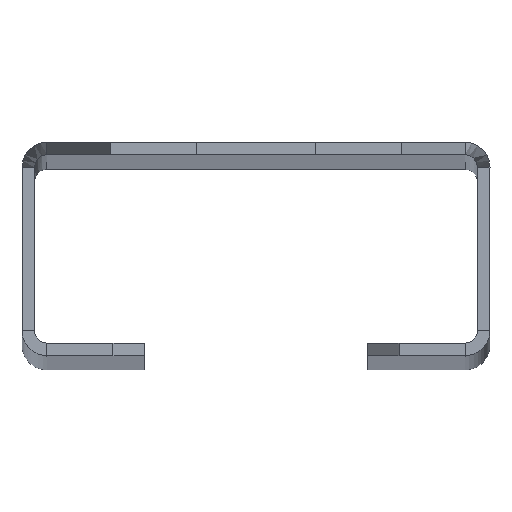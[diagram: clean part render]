
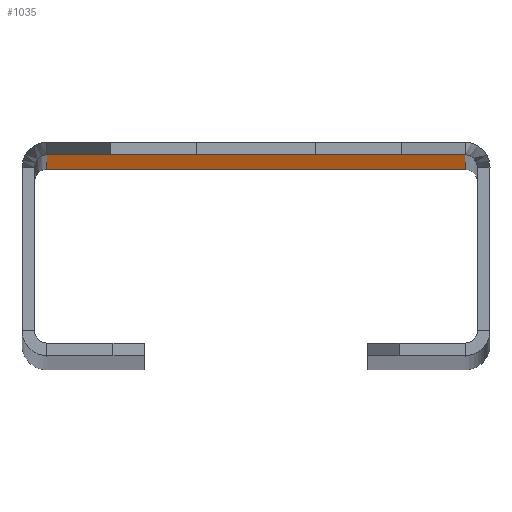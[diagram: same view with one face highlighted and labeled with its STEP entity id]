
A CAD part, top view. The second image highlights one B-rep face of the part: STEP entity #1035.
In plain terms, the highlighted planar face has unit normal (0, -1, 0).
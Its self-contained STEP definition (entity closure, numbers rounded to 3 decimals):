
#6 = VECTOR ( 'NONE', #412, 1000. ) ;
#7 = DIRECTION ( 'NONE',  ( 0., 0., 1. ) ) ;
#8 = CARTESIAN_POINT ( 'NONE',  ( 6.45, -1.2, -407.5 ) ) ;
#28 = EDGE_CURVE ( 'NONE', #513, #537, #1374, .T. ) ;
#50 = EDGE_CURVE ( 'NONE', #236, #537, #218, .T. ) ;
#52 = DIRECTION ( 'NONE',  ( 0., 0., -1. ) ) ;
#65 = CARTESIAN_POINT ( 'NONE',  ( 6.45, -1.2, -404.25 ) ) ;
#76 = FACE_BOUND ( 'NONE', #1067, .T. ) ;
#77 = CIRCLE ( 'NONE', #342, 3.25 ) ;
#100 = CARTESIAN_POINT ( 'NONE',  ( -7.9, -1.2, 399.781 ) ) ;
#102 = DIRECTION ( 'NONE',  ( 0., 0., 1. ) ) ;
#111 = CARTESIAN_POINT ( 'NONE',  ( -1.745, -1.2, 410.25 ) ) ;
#117 = VECTOR ( 'NONE', #736, 1000. ) ;
#138 = CIRCLE ( 'NONE', #580, 3.25 ) ;
#154 = VERTEX_POINT ( 'NONE', #462 ) ;
#155 = EDGE_CURVE ( 'NONE', #408, #1601, #138, .T. ) ;
#156 = VERTEX_POINT ( 'NONE', #352 ) ;
#170 = VERTEX_POINT ( 'NONE', #1681 ) ;
#175 = DIRECTION ( 'NONE',  ( -0.507, 0., 0.862 ) ) ;
#180 = CARTESIAN_POINT ( 'NONE',  ( 0., -1.2, 0. ) ) ;
#193 = VECTOR ( 'NONE', #884, 1000. ) ;
#196 = CIRCLE ( 'NONE', #1395, 3.25 ) ;
#213 = EDGE_CURVE ( 'NONE', #1495, #1347, #917, .T. ) ;
#218 = LINE ( 'NONE', #1419, #890 ) ;
#233 = DIRECTION ( 'NONE',  ( 0., 0., -1. ) ) ;
#235 = DIRECTION ( 'NONE',  ( 0., -1., 0. ) ) ;
#236 = VERTEX_POINT ( 'NONE', #111 ) ;
#241 = EDGE_CURVE ( 'NONE', #156, #386, #196, .T. ) ;
#259 = CARTESIAN_POINT ( 'NONE',  ( 6.45, -1.2, -401. ) ) ;
#273 = DIRECTION ( 'NONE',  ( 0., 1., 0. ) ) ;
#279 = CARTESIAN_POINT ( 'NONE',  ( -1.745, -1.2, -410.25 ) ) ;
#280 = VERTEX_POINT ( 'NONE', #8 ) ;
#284 = EDGE_CURVE ( 'NONE', #1679, #280, #1484, .T. ) ;
#292 = CARTESIAN_POINT ( 'NONE',  ( -7.9, -1.2, -410.25 ) ) ;
#299 = DIRECTION ( 'NONE',  ( 0., 0., 1. ) ) ;
#318 = CARTESIAN_POINT ( 'NONE',  ( 17.95, -1.2, 404.25 ) ) ;
#323 = CARTESIAN_POINT ( 'NONE',  ( 32.3, -1.2, -399.781 ) ) ;
#328 = AXIS2_PLACEMENT_3D ( 'NONE', #654, #1567, #233 ) ;
#332 = DIRECTION ( 'NONE',  ( 0., 0., -1. ) ) ;
#342 = AXIS2_PLACEMENT_3D ( 'NONE', #65, #992, #1683 ) ;
#350 = ORIENTED_EDGE ( 'NONE', *, *, #581, .T. ) ;
#352 = CARTESIAN_POINT ( 'NONE',  ( 12.2, -1.2, -377. ) ) ;
#367 = EDGE_CURVE ( 'NONE', #824, #408, #578, .T. ) ;
#369 = LINE ( 'NONE', #100, #1282 ) ;
#375 = DIRECTION ( 'NONE',  ( -0.507, 0., -0.862 ) ) ;
#376 = DIRECTION ( 'NONE',  ( 0., 0., -1. ) ) ;
#386 = VERTEX_POINT ( 'NONE', #1656 ) ;
#390 = VERTEX_POINT ( 'NONE', #978 ) ;
#408 = VERTEX_POINT ( 'NONE', #1525 ) ;
#409 = EDGE_CURVE ( 'NONE', #170, #625, #989, .T. ) ;
#412 = DIRECTION ( 'NONE',  ( 1., 0., 0. ) ) ;
#416 = VECTOR ( 'NONE', #1582, 1000. ) ;
#426 = CARTESIAN_POINT ( 'NONE',  ( 32.3, -1.2, 399.781 ) ) ;
#429 = ORIENTED_EDGE ( 'NONE', *, *, #557, .F. ) ;
#454 = DIRECTION ( 'NONE',  ( 1., 0., 0. ) ) ;
#455 = EDGE_CURVE ( 'NONE', #513, #625, #1234, .T. ) ;
#462 = CARTESIAN_POINT ( 'NONE',  ( 17.95, -1.2, -401. ) ) ;
#463 = CARTESIAN_POINT ( 'NONE',  ( -7.9, -1.2, -399.781 ) ) ;
#469 = VERTEX_POINT ( 'NONE', #1243 ) ;
#478 = CARTESIAN_POINT ( 'NONE',  ( -7.9, -1.2, -399.781 ) ) ;
#501 = CIRCLE ( 'NONE', #328, 3.25 ) ;
#513 = VERTEX_POINT ( 'NONE', #745 ) ;
#527 = CARTESIAN_POINT ( 'NONE',  ( 6.45, -1.2, -401. ) ) ;
#537 = VERTEX_POINT ( 'NONE', #903 ) ;
#550 = CARTESIAN_POINT ( 'NONE',  ( 6.45, -1.2, 401. ) ) ;
#554 = EDGE_LOOP ( 'NONE', ( #1399, #429 ) ) ;
#557 = EDGE_CURVE ( 'NONE', #386, #156, #501, .T. ) ;
#559 = FACE_BOUND ( 'NONE', #758, .T. ) ;
#569 = DIRECTION ( 'NONE',  ( 0., -1., 0. ) ) ;
#578 = LINE ( 'NONE', #1115, #117 ) ;
#580 = AXIS2_PLACEMENT_3D ( 'NONE', #318, #910, #102 ) ;
#581 = EDGE_CURVE ( 'NONE', #236, #390, #369, .T. ) ;
#625 = VERTEX_POINT ( 'NONE', #755 ) ;
#654 = CARTESIAN_POINT ( 'NONE',  ( 12.2, -1.2, -380.25 ) ) ;
#655 = DIRECTION ( 'NONE',  ( 0.507, 0., -0.862 ) ) ;
#665 = ORIENTED_EDGE ( 'NONE', *, *, #367, .T. ) ;
#671 = LINE ( 'NONE', #550, #416 ) ;
#696 = ORIENTED_EDGE ( 'NONE', *, *, #902, .T. ) ;
#713 = CARTESIAN_POINT ( 'NONE',  ( 32.3, -1.2, 399.781 ) ) ;
#729 = DIRECTION ( 'NONE',  ( 0.507, 0., 0.862 ) ) ;
#736 = DIRECTION ( 'NONE',  ( 1., 0., 0. ) ) ;
#745 = CARTESIAN_POINT ( 'NONE',  ( 32.3, -1.2, 399.781 ) ) ;
#751 = VECTOR ( 'NONE', #52, 1000. ) ;
#755 = CARTESIAN_POINT ( 'NONE',  ( 32.3, -1.2, -399.781 ) ) ;
#758 = EDGE_LOOP ( 'NONE', ( #1300, #665, #1273, #696 ) ) ;
#822 = DIRECTION ( 'NONE',  ( -1., 0., 0. ) ) ;
#824 = VERTEX_POINT ( 'NONE', #869 ) ;
#847 = ORIENTED_EDGE ( 'NONE', *, *, #1503, .T. ) ;
#848 = EDGE_CURVE ( 'NONE', #469, #824, #1089, .T. ) ;
#857 = AXIS2_PLACEMENT_3D ( 'NONE', #180, #569, #332 ) ;
#869 = CARTESIAN_POINT ( 'NONE',  ( 6.45, -1.2, 407.5 ) ) ;
#884 = DIRECTION ( 'NONE',  ( 0., 0., 1. ) ) ;
#890 = VECTOR ( 'NONE', #454, 1000. ) ;
#902 = EDGE_CURVE ( 'NONE', #1601, #469, #671, .T. ) ;
#903 = CARTESIAN_POINT ( 'NONE',  ( 26.145, -1.2, 410.25 ) ) ;
#908 = EDGE_CURVE ( 'NONE', #154, #1679, #1611, .T. ) ;
#910 = DIRECTION ( 'NONE',  ( 0., 1., 0. ) ) ;
#913 = CARTESIAN_POINT ( 'NONE',  ( 17.95, -1.2, -407.5 ) ) ;
#917 = LINE ( 'NONE', #1158, #1308 ) ;
#931 = CARTESIAN_POINT ( 'NONE',  ( 17.95, -1.2, -404.25 ) ) ;
#932 = CARTESIAN_POINT ( 'NONE',  ( 6.45, -1.2, -407.5 ) ) ;
#950 = EDGE_CURVE ( 'NONE', #1563, #154, #952, .T. ) ;
#952 = LINE ( 'NONE', #527, #6 ) ;
#954 = ORIENTED_EDGE ( 'NONE', *, *, #284, .T. ) ;
#962 = EDGE_CURVE ( 'NONE', #170, #1347, #1331, .T. ) ;
#965 = ORIENTED_EDGE ( 'NONE', *, *, #213, .T. ) ;
#978 = CARTESIAN_POINT ( 'NONE',  ( -7.9, -1.2, 399.781 ) ) ;
#987 = PLANE ( 'NONE',  #857 ) ;
#989 = LINE ( 'NONE', #323, #1507 ) ;
#992 = DIRECTION ( 'NONE',  ( 0., 1., 0. ) ) ;
#1035 = ADVANCED_FACE ( 'NONE', ( #1533, #559, #76, #1388 ), #987, .T. ) ;
#1046 = ORIENTED_EDGE ( 'NONE', *, *, #950, .T. ) ;
#1067 = EDGE_LOOP ( 'NONE', ( #847, #1046, #1297, #954 ) ) ;
#1089 = CIRCLE ( 'NONE', #1312, 3.25 ) ;
#1115 = CARTESIAN_POINT ( 'NONE',  ( 6.45, -1.2, 407.5 ) ) ;
#1158 = CARTESIAN_POINT ( 'NONE',  ( -7.9, -1.2, -399.781 ) ) ;
#1178 = EDGE_CURVE ( 'NONE', #1495, #390, #1672, .T. ) ;
#1182 = ORIENTED_EDGE ( 'NONE', *, *, #962, .F. ) ;
#1190 = VECTOR ( 'NONE', #822, 1000. ) ;
#1192 = VECTOR ( 'NONE', #175, 1000. ) ;
#1205 = ORIENTED_EDGE ( 'NONE', *, *, #28, .T. ) ;
#1234 = LINE ( 'NONE', #713, #751 ) ;
#1243 = CARTESIAN_POINT ( 'NONE',  ( 6.45, -1.2, 401. ) ) ;
#1273 = ORIENTED_EDGE ( 'NONE', *, *, #155, .T. ) ;
#1282 = VECTOR ( 'NONE', #375, 1000. ) ;
#1291 = CARTESIAN_POINT ( 'NONE',  ( 12.2, -1.2, -380.25 ) ) ;
#1297 = ORIENTED_EDGE ( 'NONE', *, *, #908, .T. ) ;
#1300 = ORIENTED_EDGE ( 'NONE', *, *, #848, .T. ) ;
#1308 = VECTOR ( 'NONE', #655, 1000. ) ;
#1312 = AXIS2_PLACEMENT_3D ( 'NONE', #1522, #1498, #299 ) ;
#1331 = LINE ( 'NONE', #292, #1190 ) ;
#1338 = VECTOR ( 'NONE', #1493, 1000. ) ;
#1347 = VERTEX_POINT ( 'NONE', #279 ) ;
#1358 = ORIENTED_EDGE ( 'NONE', *, *, #455, .F. ) ;
#1374 = LINE ( 'NONE', #426, #1192 ) ;
#1388 = FACE_OUTER_BOUND ( 'NONE', #1609, .T. ) ;
#1395 = AXIS2_PLACEMENT_3D ( 'NONE', #1291, #235, #376 ) ;
#1399 = ORIENTED_EDGE ( 'NONE', *, *, #241, .F. ) ;
#1419 = CARTESIAN_POINT ( 'NONE',  ( -7.9, -1.2, 410.25 ) ) ;
#1475 = ORIENTED_EDGE ( 'NONE', *, *, #50, .F. ) ;
#1484 = LINE ( 'NONE', #932, #1338 ) ;
#1493 = DIRECTION ( 'NONE',  ( -1., 0., 0. ) ) ;
#1495 = VERTEX_POINT ( 'NONE', #463 ) ;
#1498 = DIRECTION ( 'NONE',  ( 0., 1., 0. ) ) ;
#1503 = EDGE_CURVE ( 'NONE', #280, #1563, #77, .T. ) ;
#1504 = AXIS2_PLACEMENT_3D ( 'NONE', #931, #273, #7 ) ;
#1507 = VECTOR ( 'NONE', #729, 1000. ) ;
#1522 = CARTESIAN_POINT ( 'NONE',  ( 6.45, -1.2, 404.25 ) ) ;
#1525 = CARTESIAN_POINT ( 'NONE',  ( 17.95, -1.2, 407.5 ) ) ;
#1533 = FACE_BOUND ( 'NONE', #554, .T. ) ;
#1563 = VERTEX_POINT ( 'NONE', #259 ) ;
#1567 = DIRECTION ( 'NONE',  ( 0., -1., 0. ) ) ;
#1570 = CARTESIAN_POINT ( 'NONE',  ( 17.95, -1.2, 401. ) ) ;
#1582 = DIRECTION ( 'NONE',  ( -1., 0., 0. ) ) ;
#1601 = VERTEX_POINT ( 'NONE', #1570 ) ;
#1609 = EDGE_LOOP ( 'NONE', ( #1475, #350, #1668, #965, #1182, #1665, #1358, #1205 ) ) ;
#1611 = CIRCLE ( 'NONE', #1504, 3.25 ) ;
#1656 = CARTESIAN_POINT ( 'NONE',  ( 12.2, -1.2, -383.5 ) ) ;
#1665 = ORIENTED_EDGE ( 'NONE', *, *, #409, .T. ) ;
#1668 = ORIENTED_EDGE ( 'NONE', *, *, #1178, .F. ) ;
#1672 = LINE ( 'NONE', #478, #193 ) ;
#1679 = VERTEX_POINT ( 'NONE', #913 ) ;
#1681 = CARTESIAN_POINT ( 'NONE',  ( 26.145, -1.2, -410.25 ) ) ;
#1683 = DIRECTION ( 'NONE',  ( 0., 0., 1. ) ) ;
